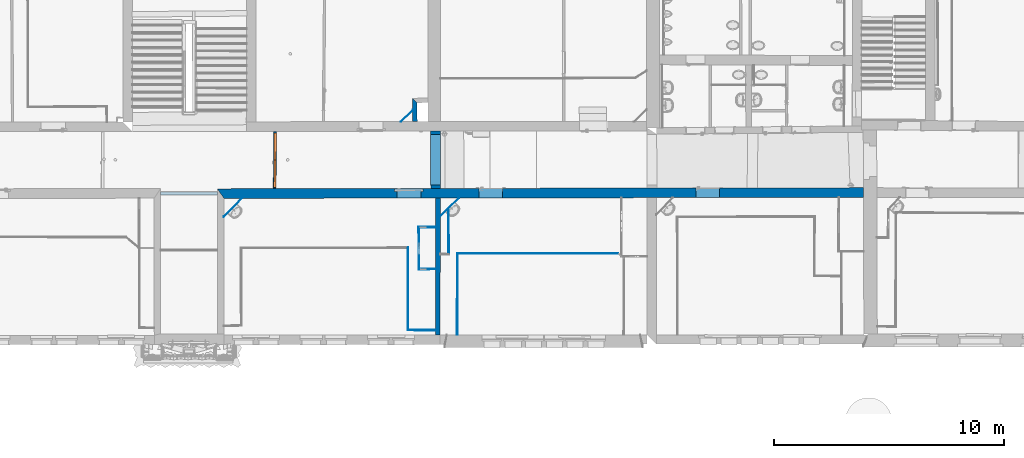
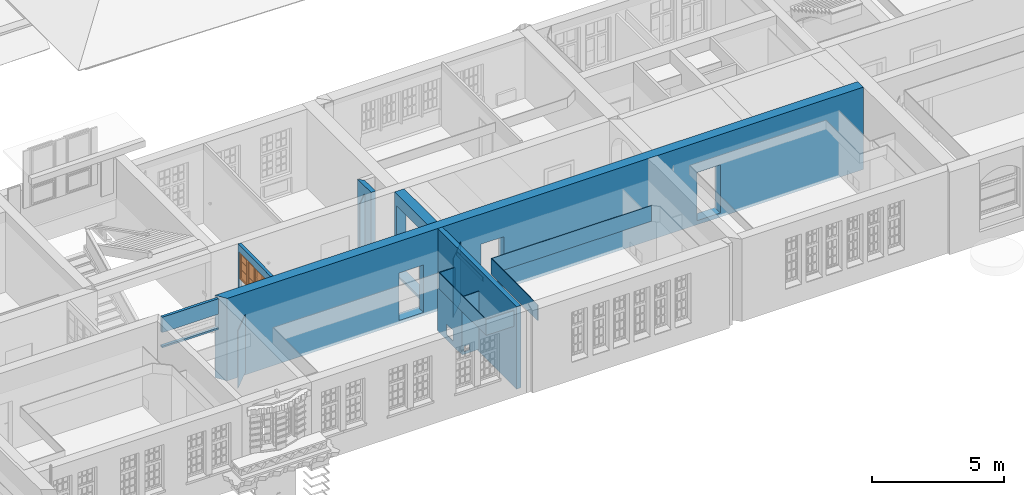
# One storey, part 32 of 158: 17 walls, 2 proxies, 11 openings.
"""IFC2X3 building model written with IfcOpenShell, lengths in metres."""

from ifc_helpers import new_model, entity, si_unit, converted_unit, derived_unit, money_unit, direction, frame, origin_with_axes, origin_2d_with_axis, place, context, subcontext, project, spatial, polyline, rectangle, outline, extrude, faceted_brep, source, transform, mapped, material, layer, layer_set, layer_usage, type_object, element, fill, save


model = new_model("IFC2X3")

# Units and contexts
model_context = context("Model", 3, precision=1e-05, world=origin_with_axes(), true_north=direction((0.0, 1.0)))
body_context = subcontext(model_context, "Body", "Model", "MODEL_VIEW")
ifc_project = project(units=[si_unit("LENGTHUNIT", "METRE"), si_unit("AREAUNIT", "SQUARE_METRE"), si_unit("VOLUMEUNIT", "CUBIC_METRE"), converted_unit("PLANEANGLEUNIT", "DEGREE", entity("IfcPlaneAngleMeasure", 0.0174532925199), si_unit("PLANEANGLEUNIT", "RADIAN"), dimensions=[0, 0, 0, 0, 0, 0, 0]), money_unit("EUR"), converted_unit("TIMEUNIT", "Year", entity("IfcTimeMeasure", 31556926.0), si_unit("TIMEUNIT", "SECOND"), dimensions=[0, 0, 1, 0, 0, 0, 0]), si_unit("MASSUNIT", "GRAM", prefix="KILO"), si_unit("THERMODYNAMICTEMPERATUREUNIT", "DEGREE_CELSIUS"), si_unit("LUMINOUSINTENSITYUNIT", "LUMEN"), si_unit("ENERGYUNIT", "JOULE", prefix="MEGA"), derived_unit("THERMALCONDUCTANCEUNIT", [(si_unit("POWERUNIT", "WATT"), 1), (si_unit("LENGTHUNIT", "METRE"), -1), (si_unit("THERMODYNAMICTEMPERATUREUNIT", "KELVIN"), -1)]), derived_unit("SPECIFICHEATCAPACITYUNIT", [(si_unit("ENERGYUNIT", "JOULE"), 1), (si_unit("MASSUNIT", "GRAM", prefix="KILO"), -1), (si_unit("THERMODYNAMICTEMPERATUREUNIT", "KELVIN"), -1)]), derived_unit("MASSDENSITYUNIT", [(si_unit("MASSUNIT", "GRAM", prefix="KILO"), 1), (si_unit("VOLUMEUNIT", "CUBIC_METRE"), -1)])], contexts=[model_context])

# Site, building, storey
site_placement = place(None, origin_with_axes())
site = spatial("IfcSite", under=ifc_project, at=site_placement, Name="Gelände", CompositionType="ELEMENT")
building_placement = place(site_placement, origin_with_axes())
building = spatial("IfcBuilding", under=site, at=building_placement, Name="Gebäude", CompositionType="ELEMENT")
storey_placement = place(building_placement, origin_with_axes())
storey = spatial("IfcBuildingStorey", under=building, at=storey_placement, Name="ERDGESCHOSS", CompositionType="ELEMENT", Elevation=0.0)

# Walls
ifc_material_1 = material(Name="05_ALLGEMEIN - TRAGENDE BAUTEILE")
ifc_layer_1 = layer(ifc_material_1, 0.2, ventilated="UNKNOWN")
ifc_layer_set_1 = layer_set([ifc_layer_1], Name="05_ALLGEMEIN - TRAGENDE BAUTEILE 0.2")
ifc_layer_usage_1 = layer_usage(ifc_layer_set_1, "AXIS2", "NEGATIVE", 0.2)
wall_type_1 = type_object("IfcWallType", Name="05_ALLGEMEIN - TRAGENDE BAUTEILE 200", PredefinedType="ELEMENTEDWALL")
wall_1_placement = place(storey_placement, frame((3.55510466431, 9.99557941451, -0.21), z_axis=(0.0, 0.0, 1.0), x_axis=(0.000249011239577, 0.999999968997, 0.0)))
element("IfcWallStandardCase", 1, at=wall_1_placement, inside=storey, type_object=wall_type_1, material=ifc_layer_usage_1, Name="Wand-035", ObjectType="ELEMENTEDWALL", context=body_context, shape_type="SweptSolid", body=[
    extrude(outline(polyline([(0.41900002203, 0.0), (6.3745866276, 0.0), (6.37421343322, 0.2), (0.404935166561, 0.2), (0.41900002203, 0.0)])), origin_with_axes(), (0.0, 0.0, 1.0), 3.81),
])
ifc_layer_usage_2 = layer_usage(ifc_layer_set_1, "AXIS2", "NEGATIVE", 0.0)
wall_2_placement = place(storey_placement, frame((2.35908215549, 19.2782361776, -0.21), z_axis=(0.0, 0.0, 1.0), x_axis=(-0.00809398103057, 0.999967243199, 0.0)))
element("IfcWallStandardCase", 2, at=wall_2_placement, inside=storey, type_object=wall_type_1, material=ifc_layer_usage_2, Name="Wand-038", ObjectType="ELEMENTEDWALL", context=body_context, shape_type="SweptSolid", body=[
    extrude(outline(polyline([(0.413067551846, -0.2), (1.23353995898, -0.2), (1.43061819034, 0.0), (0.414628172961, 0.0), (0.413067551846, -0.2)])), origin_with_axes(), (0.0, 0.0, 1.0), 3.81),
])

# Wall, openings
ifc_layer_2 = layer(ifc_material_1, 0.42, ventilated="UNKNOWN")
ifc_layer_set_2 = layer_set([ifc_layer_2], Name="05_ALLGEMEIN - TRAGENDE BAUTEILE 0.42")
ifc_layer_usage_3 = layer_usage(ifc_layer_set_2, "AXIS2", "NEGATIVE", 0.42)
wall_type_2 = type_object("IfcWallType", Name="05_ALLGEMEIN - TRAGENDE BAUTEILE 420", PredefinedType="ELEMENTEDWALL")
wall_3_placement = place(storey_placement, frame((21.9714720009, 16.8199423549, -0.21), z_axis=(0.0, 0.0, 1.0), x_axis=(-0.999998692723, -0.00161695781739, 0.0)))
wall_3 = element("IfcWallStandardCase", 3, at=wall_3_placement, inside=storey, type_object=wall_type_2, material=ifc_layer_usage_3, Name="Wand-036", ObjectType="ELEMENTEDWALL", context=body_context, shape_type="SweptSolid", body=[
    extrude(outline(polyline([(0.0, 0.0), (28.1196278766, 0.0), (27.8302322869, 0.42), (-0.000643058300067, 0.42), (0.0, 0.0)])), origin_with_axes(), (0.0, 0.0, 1.0), 3.81),
])
opening_1_placement = place(wall_3_placement, frame((16.2172151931, 0.0, 0.166246), z_axis=(0.0, 0.0, 1.0), x_axis=(1.0, 0.0, 0.0)))
element("IfcOpeningElement", 4, at=opening_1_placement, cuts=wall_3, Name="Tür-022", context=body_context, shape_type="SweptSolid", body=[
    extrude(rectangle(XDim=1.00454069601, YDim=2.250558, at=origin_2d_with_axis()), frame((0.0, -0.42, 1.125279), z_axis=(0.0, 1.0, 0.0), x_axis=(-1.0, 0.0, 0.0)), (0.0, 0.0, 1.0), 1.26),
])
opening_2_placement = place(wall_3_placement, frame((6.77188532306, 0.0, 0.188019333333), z_axis=(0.0, 0.0, 1.0), x_axis=(1.0, 0.0, 0.0)))
element("IfcOpeningElement", 5, at=opening_2_placement, cuts=wall_3, Name="Tür-022", context=body_context, shape_type="SweptSolid", body=[
    extrude(rectangle(XDim=1.03194822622, YDim=2.22878466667, at=origin_2d_with_axis()), frame((0.0, -0.42, 1.11439233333), z_axis=(0.0, 1.0, 0.0), x_axis=(-1.0, 0.0, 0.0)), (0.0, 0.0, 1.0), 1.26),
])
opening_3_placement = place(wall_3_placement, frame((19.7783409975, 0.0, 0.156249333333), z_axis=(0.0, 0.0, 1.0), x_axis=(1.0, 0.0, 0.0)))
element("IfcOpeningElement", 6, at=opening_3_placement, cuts=wall_3, Name="Tür-022", context=body_context, shape_type="SweptSolid", body=[
    extrude(rectangle(XDim=1.05907517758, YDim=2.193751, at=origin_2d_with_axis()), frame((0.0, 0.14, 1.0968755), z_axis=(0.0, -1.0, 0.0), x_axis=(-1.0, 0.0, 0.0)), (0.0, 0.0, -1.0), 0.7),
    extrude(rectangle(XDim=1.23907517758, YDim=2.283751, at=origin_2d_with_axis()), frame((0.0, 0.05, 1.1418755), z_axis=(0.0, 1.0, 0.0), x_axis=(-1.0, 0.0, 0.0)), (0.0, 0.0, 1.0), 0.09),
    extrude(rectangle(XDim=1.23907517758, YDim=2.283751, at=origin_2d_with_axis()), frame((0.0, 0.05, 1.1418755), z_axis=(0.0, 1.0, 0.0), x_axis=(-1.0, 0.0, 0.0)), (0.0, 0.0, -1.0), 0.47),
])

# Wall, opening
ifc_layer_3 = layer(ifc_material_1, 0.12, ventilated="UNKNOWN")
ifc_layer_set_3 = layer_set([ifc_layer_3], Name="05_ALLGEMEIN - TRAGENDE BAUTEILE 0.12")
ifc_layer_usage_4 = layer_usage(ifc_layer_set_3, "AXIS2", "NEGATIVE", 0.0)
wall_type_3 = type_object("IfcWallType", Name="05_ALLGEMEIN - TRAGENDE BAUTEILE 120", PredefinedType="ELEMENTEDWALL")
wall_4_placement = place(storey_placement, frame((-8.8958416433, 16.6259238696, 2.18389869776), z_axis=(0.0, 0.0, 1.0), x_axis=(0.999999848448, -0.000550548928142, 0.0)))
wall_4 = element("IfcWallStandardCase", 7, at=wall_4_placement, inside=storey, type_object=wall_type_3, material=ifc_layer_usage_4, Name="Wand-036", ObjectType="ELEMENTEDWALL", context=body_context, shape_type="SweptSolid", body=[
    extrude(outline(polyline([(0.280162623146, -0.12), (2.74785957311, -0.12), (2.74785957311, 0.0), (0.280000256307, 0.0), (0.280162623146, -0.12)])), origin_with_axes(), (0.0, 0.0, 1.0), 1.41610130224),
])
opening_4_placement = place(wall_4_placement, frame((1.51392991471, 0.0, 0.0799876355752), z_axis=(0.0, 0.0, 1.0), x_axis=(1.0, 0.0, 0.0)))
element("IfcOpeningElement", 8, at=opening_4_placement, cuts=wall_4, Name="Fenster-016", context=body_context, shape_type="SweptSolid", body=[
    extrude(rectangle(XDim=2.4678593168, YDim=0.62715, at=origin_2d_with_axis()), frame((0.0, -0.12, 0.313575), z_axis=(0.0, 1.0, 0.0), x_axis=(-1.0, 0.0, 0.0)), (0.0, 0.0, 1.0), 0.36),
])

ifc_material_2 = material(Name="43_Gipskarton")
ifc_layer_4 = layer(ifc_material_2, 0.03, ventilated="UNKNOWN")
ifc_layer_set_4 = layer_set([ifc_layer_4], Name="43_Gipskarton 0.03")
ifc_layer_usage_5 = layer_usage(ifc_layer_set_4, "AXIS2", "NEGATIVE", 0.03)
wall_type_4 = type_object("IfcWallType", Name="43_Gipskarton 30", PredefinedType="ELEMENTEDWALL")
wall_5_placement = place(storey_placement, frame((2.61746169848, 13.2516021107, -0.1), z_axis=(0.0, 0.0, 1.0), x_axis=(0.9998155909, 0.0192037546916, 0.0)))
wall_5 = element("IfcWallStandardCase", 9, at=wall_5_placement, inside=storey, type_object=wall_type_4, material=ifc_layer_usage_5, Name="Wand-032", ObjectType="ELEMENTEDWALL", context=body_context, shape_type="SweptSolid", body=[
    extrude(outline(polyline([(0.0, 0.0), (0.738593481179, 0.0), (0.739177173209, 0.03), (0.0304233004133, 0.03), (0.0, 0.0)])), origin_with_axes(), (0.0, 0.0, 1.0), 2.68),
])
opening_5_placement = place(wall_5_placement, frame((0.199169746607, 0.0, 0.127277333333), z_axis=(0.0, 0.0, 1.0), x_axis=(1.0, 0.0, 0.0)))
element("IfcOpeningElement", 10, at=opening_5_placement, cuts=wall_5, Name="Tür-022", context=body_context, shape_type="SweptSolid", body=[
    extrude(rectangle(XDim=0.255160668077, YDim=0.24614, at=origin_2d_with_axis()), frame((0.0, -0.03, 0.12307), z_axis=(0.0, -1.0, 0.0), x_axis=(1.0, 0.0, 0.0)), (0.0, 0.0, -1.0), 0.09),
])

ifc_layer_usage_6 = layer_usage(ifc_layer_set_4, "AXIS2", "NEGATIVE", 0.03)
wall_6_placement = place(storey_placement, frame((3.55637992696, 15.1168848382, -0.1), z_axis=(0.0, 0.0, 1.0), x_axis=(-0.999998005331, -0.00199733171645, 0.0)))
wall_6 = element("IfcWallStandardCase", 11, at=wall_6_placement, inside=storey, type_object=wall_type_4, material=ifc_layer_usage_6, Name="Wand-032", ObjectType="ELEMENTEDWALL", context=body_context, shape_type="SweptSolid", body=[
    extrude(outline(polyline([(0.200000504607, 0.0), (0.948598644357, 0.0), (0.918502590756, 0.03), (0.200067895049, 0.03), (0.200000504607, 0.0)])), origin_with_axes(), (0.0, 0.0, 1.0), 2.68),
])
opening_6_placement = place(wall_6_placement, frame((0.746464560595, 0.0, 0.127693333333), z_axis=(0.0, 0.0, 1.0), x_axis=(1.0, 0.0, 0.0)))
element("IfcOpeningElement", 12, at=opening_6_placement, cuts=wall_6, Name="Tür-022", context=body_context, shape_type="SweptSolid", body=[
    extrude(rectangle(XDim=0.251016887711, YDim=0.247427, at=origin_2d_with_axis()), frame((0.0, -0.03, 0.1237135), z_axis=(0.0, 1.0, 0.0), x_axis=(-1.0, 0.0, 0.0)), (0.0, 0.0, 1.0), 0.09),
])

ifc_layer_usage_7 = layer_usage(ifc_layer_set_4, "AXIS2", "NEGATIVE", 0.03)
wall_7_placement = place(storey_placement, frame((2.60778317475, 15.114990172, -0.1), z_axis=(0.0, 0.0, 1.0), x_axis=(0.00519397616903, -0.999986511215, 0.0)))
wall_7 = element("IfcWallStandardCase", 13, at=wall_7_placement, inside=storey, type_object=wall_type_4, material=ifc_layer_usage_7, Name="Wand-032", ObjectType="ELEMENTEDWALL", context=body_context, shape_type="SweptSolid", body=[
    extrude(outline(polyline([(0.0, 0.0), (1.86341319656, 0.0), (1.83298989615, 0.03), (0.0300960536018, 0.03), (0.0, 0.0)])), origin_with_axes(), (0.0, 0.0, 1.0), 2.68),
])
opening_7_placement = place(wall_7_placement, frame((0.940618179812, 0.0, 0.233793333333), z_axis=(0.0, 0.0, 1.0), x_axis=(1.0, 0.0, 0.0)))
element("IfcOpeningElement", 14, at=opening_7_placement, cuts=wall_7, Name="Tür-022", context=body_context, shape_type="SweptSolid", body=[
    extrude(rectangle(XDim=0.496701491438, YDim=0.48975, at=origin_2d_with_axis()), frame((0.0, -0.03, 0.244875), z_axis=(0.0, 1.0, 0.0), x_axis=(-1.0, 0.0, 0.0)), (0.0, 0.0, 1.0), 0.09),
])

# Walls
ifc_layer_usage_8 = layer_usage(ifc_layer_set_4, "AXIS2", "NEGATIVE", 0.03)
wall_8_placement = place(storey_placement, frame((-5.85790078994, 15.5422168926, -0.08), z_axis=(0.0, 0.0, 1.0), x_axis=(0.702281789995, 0.711899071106, 0.0)))
element("IfcWallStandardCase", 15, at=wall_8_placement, inside=storey, type_object=wall_type_4, material=ifc_layer_usage_8, Name="Wand-033", ObjectType="ELEMENTEDWALL", context=body_context, shape_type="SweptSolid", body=[
    extrude(outline(polyline([(0.0, 0.0), (1.14345478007, 0.0), (1.11376419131, 0.03), (0.0304000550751, 0.03), (0.0, 0.0)])), origin_with_axes(), (0.0, 0.0, 1.0), 2.66),
])
ifc_layer_usage_9 = layer_usage(ifc_layer_set_4, "AXIS2", "NEGATIVE", 0.03)
wall_9_placement = place(storey_placement, frame((3.55648790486, 15.5505114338, -0.1), z_axis=(0.0, 0.0, 1.0), x_axis=(0.705938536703, 0.708273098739, 0.0)))
element("IfcWallStandardCase", 16, at=wall_9_placement, inside=storey, type_object=wall_type_4, material=ifc_layer_usage_9, Name="Wand-034", ObjectType="ELEMENTEDWALL", context=body_context, shape_type="SweptSolid", body=[
    extrude(outline(polyline([(0.0, 0.0), (1.15912519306, 0.0), (1.12912722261, 0.03), (0.0301142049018, 0.03), (0.0, 0.0)])), origin_with_axes(), (0.0, 0.0, 1.0), 2.725),
])
ifc_layer_usage_10 = layer_usage(ifc_layer_set_4, "AXIS2", "NEGATIVE", 0.0)
wall_10_placement = place(storey_placement, frame((1.40259569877, 19.2779577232, -0.08), z_axis=(0.0, 0.0, 1.0), x_axis=(0.714375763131, 0.699762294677, 0.0)))
element("IfcWallStandardCase", 17, at=wall_10_placement, inside=storey, type_object=wall_type_4, material=ifc_layer_usage_10, Name="Wand-038", ObjectType="ELEMENTEDWALL", context=body_context, shape_type="SweptSolid", body=[
    extrude(outline(polyline([(0.623329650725, -0.03), (1.29946885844, -0.03), (1.32838309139, 0.0), (0.592685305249, 0.0), (0.623329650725, -0.03)])), origin_with_axes(), (0.0, 0.0, 1.0), 3.31),
])
ifc_layer_usage_11 = layer_usage(ifc_layer_set_4, "AXIS2", "NEGATIVE", 0.03)
wall_11_placement = place(storey_placement, frame((4.32262784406, 13.9474395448, 2.625), z_axis=(0.0, 0.0, 1.0), x_axis=(0.999999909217, -0.000426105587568, 0.0)))
element("IfcWallStandardCase", 18, at=wall_11_placement, inside=storey, type_object=wall_type_4, material=ifc_layer_usage_11, Name="Wand-041", ObjectType="ELEMENTEDWALL", context=body_context, shape_type="SweptSolid", body=[
    extrude(outline(polyline([(0.0, 0.0), (6.9773817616, 0.0), (6.98883710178, 0.03), (-0.0298931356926, 0.03), (0.0, 0.0)])), origin_with_axes(), (0.0, 0.0, 1.0), 0.725),
])
ifc_layer_usage_12 = layer_usage(ifc_layer_set_4, "AXIS2", "NEGATIVE", 0.03)
wall_12_placement = place(storey_placement, frame((2.13699682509, 14.1890641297, 2.58), z_axis=(0.0, 0.0, 1.0), x_axis=(-0.000899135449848, -0.999999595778, 0.0)))
element("IfcWallStandardCase", 19, at=wall_12_placement, inside=storey, type_object=wall_type_4, material=ifc_layer_usage_12, Name="Wand-042", ObjectType="ELEMENTEDWALL", context=body_context, shape_type="SweptSolid", body=[
    extrude(outline(polyline([(0.0, 0.0), (3.58033816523, 0.0), (3.55056123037, 0.03), (-0.0300420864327, 0.03), (0.0, 0.0)])), origin_with_axes(), (0.0, 0.0, 1.0), 0.73),
])
ifc_layer_usage_13 = layer_usage(ifc_layer_set_4, "AXIS2", "NEGATIVE", 0.0)
wall_13_placement = place(storey_placement, frame((4.32262784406, 13.9474395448, 2.625), z_axis=(0.0, 0.0, 1.0), x_axis=(-0.0039945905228, -0.999992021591, 0.0)))
element("IfcWallStandardCase", 20, at=wall_13_placement, inside=storey, type_object=wall_type_4, material=ifc_layer_usage_13, Name="Wand-042", ObjectType="ELEMENTEDWALL", context=body_context, shape_type="SweptSolid", body=[
    extrude(outline(polyline([(-0.0298931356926, -0.03), (3.53327250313, -0.03), (3.53315788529, 0.0), (0.0, 0.0), (-0.0298931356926, -0.03)])), origin_with_axes(), (0.0, 0.0, 1.0), 0.725),
])
ifc_layer_usage_14 = layer_usage(ifc_layer_set_4, "AXIS2", "NEGATIVE", 0.03)
wall_14_placement = place(storey_placement, frame((2.13377761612, 10.6087274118, 2.58), z_axis=(0.0, 0.0, 1.0), x_axis=(0.999965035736, -0.00836225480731, 0.0)))
element("IfcWallStandardCase", 21, at=wall_14_placement, inside=storey, type_object=wall_type_4, material=ifc_layer_usage_14, Name="Wand-043", ObjectType="ELEMENTEDWALL", context=body_context, shape_type="SweptSolid", body=[
    extrude(outline(polyline([(0.0, 0.0), (1.22151988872, 0.0), (1.22127648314, 0.03), (0.0297769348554, 0.03), (0.0, 0.0)])), origin_with_axes(), (0.0, 0.0, 1.0), 0.73),
])
ifc_layer_usage_15 = layer_usage(ifc_layer_set_4, "AXIS2", "NEGATIVE", 0.0)
wall_15_placement = place(storey_placement, frame((3.93339412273, 15.9286640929, 2.445), z_axis=(0.0, 0.0, 1.0), x_axis=(0.00290093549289, -0.999995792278, 0.0)))
element("IfcWallStandardCase", 22, at=wall_15_placement, inside=storey, type_object=wall_type_4, material=ifc_layer_usage_15, Name="Wand-045", ObjectType="ELEMENTEDWALL", context=body_context, shape_type="SweptSolid", body=[
    extrude(outline(polyline([(0.0299250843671, -0.03), (1.9940044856, -0.03), (2.02455255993, 0.0), (0.0, 0.0), (0.0299250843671, -0.03)])), origin_with_axes(), (0.0, 0.0, 1.0), 0.18),
])

# Wall, openings, proxies
ifc_layer_5 = layer(ifc_material_1, 0.13, ventilated="UNKNOWN")
ifc_layer_set_5 = layer_set([ifc_layer_5], Name="05_ALLGEMEIN - TRAGENDE BAUTEILE 0.13")
ifc_layer_usage_16 = layer_usage(ifc_layer_set_5, "AXIS2", "NEGATIVE", 0.13)
wall_type_5 = type_object("IfcWallType", Name="05_ALLGEMEIN - TRAGENDE BAUTEILE 130", PredefinedType="ELEMENTEDWALL")
wall_16_placement = place(storey_placement, frame((-3.58523431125, 16.7786181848, -0.21), z_axis=(0.0, 0.0, 1.0), x_axis=(0.00668770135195, 0.999977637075, 0.0)))
wall_16 = element("IfcWallStandardCase", 23, at=wall_16_placement, inside=storey, type_object=wall_type_5, material=ifc_layer_usage_16, Name="Wand-036", ObjectType="ELEMENTEDWALL", context=body_context, shape_type="SweptSolid", body=[
    extrude(outline(polyline([(0.0, 0.0), (2.49794819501, 0.0), (2.49704092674, 0.13), (-0.00107963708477, 0.13), (0.0, 0.0)])), origin_with_axes(), (0.0, 0.0, 1.0), 3.81),
])
opening_8_placement = place(wall_16_placement, frame((1.83636772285, 0.0, 2.22483866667), z_axis=(0.0, 0.0, 1.0), x_axis=(1.0, 0.0, 0.0)))
opening_8 = element("IfcOpeningElement", 24, at=opening_8_placement, cuts=wall_16, Name="Fenster-016", context=body_context, shape_type="SweptSolid", body=[
    extrude(rectangle(XDim=1.18544494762, YDim=1.25641788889, at=origin_2d_with_axis()), frame((0.0, 0.007, 0.628208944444), z_axis=(0.0, 1.0, 0.0), x_axis=(-1.0, 0.0, 0.0)), (0.0, 0.0, 1.0), 0.253),
    extrude(rectangle(XDim=1.18544494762, YDim=1.25641788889, at=origin_2d_with_axis()), frame((0.0, 0.007, 0.628208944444), z_axis=(0.0, -1.0, 0.0), x_axis=(-1.0, 0.0, 0.0)), (0.0, 0.0, 1.0), 0.137),
])
opening_9_placement = place(wall_16_placement, frame((0.65092277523, 0.0, 2.22483866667), z_axis=(0.0, 0.0, 1.0), x_axis=(1.0, 0.0, 0.0)))
opening_9 = element("IfcOpeningElement", 25, at=opening_9_placement, cuts=wall_16, Name="Fenster-016", context=body_context, shape_type="SweptSolid", body=[
    extrude(rectangle(XDim=1.18544494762, YDim=1.25641788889, at=origin_2d_with_axis()), frame((0.0, 0.007, 0.628208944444), z_axis=(0.0, 1.0, 0.0), x_axis=(-1.0, 0.0, 0.0)), (0.0, 0.0, 1.0), 0.253),
    extrude(rectangle(XDim=1.18544494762, YDim=1.25641788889, at=origin_2d_with_axis()), frame((0.0, 0.007, 0.628208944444), z_axis=(0.0, -1.0, 0.0), x_axis=(-1.0, 0.0, 0.0)), (0.0, 0.0, 1.0), 0.137),
])
opening_10_placement = place(wall_16_placement, frame((1.24364524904, 0.0, 0.101866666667), z_axis=(0.0, 0.0, 1.0), x_axis=(1.0, 0.0, 0.0)))
element("IfcOpeningElement", 26, at=opening_10_placement, cuts=wall_16, Name="Tür-023", context=body_context, shape_type="SweptSolid", body=[
    extrude(rectangle(XDim=2.37088989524, YDim=2.122972, at=origin_2d_with_axis()), frame((0.0, 0.116776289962, 1.061486), z_axis=(0.0, -1.0, 0.0), x_axis=(-1.0, 0.0, 0.0)), (0.0, 0.0, 1.0), 0.246776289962),
    extrude(rectangle(XDim=2.37088989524, YDim=2.122972, at=origin_2d_with_axis()), frame((0.0, 0.116776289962, 1.061486), z_axis=(0.0, 1.0, 0.0), x_axis=(-1.0, 0.0, 0.0)), (0.0, 0.0, 1.0), 0.143223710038),
])
building_element_proxy_type = type_object("IfcBuildingElementProxyType", Name="2-Flügelfenster 1+1 25", PredefinedType="NOTDEFINED")
shared_shape = source(origin_with_axes(), body_context, "Body", "Brep", [
    faceted_brep([(0.59272247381, -0.1, 0.0), (0.53272247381, -0.1, 0.06), (0.53272247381, 0.0, 0.06), (0.59272247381, 0.0, 0.0), (0.59272247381, -0.1, 1.25641788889), (0.53272247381, -0.1, 1.19641788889), (0.53272247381, 0.0, 1.19641788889), (0.59272247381, 0.0, 1.25641788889)], [[[0, 1, 2, 3]], [[0, 4, 5, 1]], [[1, 5, 6, 2]], [[3, 2, 6, 7]], [[4, 0, 3, 7]], [[5, 4, 7, 6]]]),
    faceted_brep([(-0.59272247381, -0.1, 0.0), (-0.59272247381, -0.1, 1.25641788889), (-0.59272247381, 0.0, 1.25641788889), (-0.59272247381, 0.0, 0.0), (-0.53272247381, -0.1, 0.06), (-0.53272247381, -0.1, 1.19641788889), (-0.53272247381, 0.0, 1.19641788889), (-0.53272247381, 0.0, 0.06)], [[[0, 1, 2, 3]], [[0, 4, 5, 1]], [[1, 5, 6, 2]], [[3, 2, 6, 7]], [[4, 0, 3, 7]], [[5, 4, 7, 6]]]),
    faceted_brep([(0.59272247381, -0.1, 0.0), (-0.59272247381, -0.1, 0.0), (-0.59272247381, 0.0, 0.0), (0.59272247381, 0.0, 0.0), (0.53272247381, -0.1, 0.06), (0.07, -0.1, 0.06), (-0.07, -0.1, 0.06), (-0.53272247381, -0.1, 0.06), (-0.53272247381, 0.0, 0.06), (-0.07, 0.0, 0.06), (0.07, 0.0, 0.06), (0.53272247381, 0.0, 0.06)], [[[0, 1, 2, 3]], [[0, 4, 5, 6, 7, 1]], [[1, 7, 8, 2]], [[3, 2, 8, 9, 10, 11]], [[4, 0, 3, 11]], [[5, 4, 11, 10]], [[6, 5, 10, 9]], [[7, 6, 9, 8]]]),
    faceted_brep([(0.59272247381, -0.1, 1.25641788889), (0.53272247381, -0.1, 1.19641788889), (0.53272247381, 0.0, 1.19641788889), (0.59272247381, 0.0, 1.25641788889), (-0.59272247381, -0.1, 1.25641788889), (-0.53272247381, -0.1, 1.19641788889), (-0.07, -0.1, 1.19641788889), (0.07, -0.1, 1.19641788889), (0.07, 0.0, 1.19641788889), (-0.07, 0.0, 1.19641788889), (-0.53272247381, 0.0, 1.19641788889), (-0.59272247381, 0.0, 1.25641788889)], [[[0, 1, 2, 3]], [[0, 4, 5, 6, 7, 1]], [[1, 7, 8, 2]], [[3, 2, 8, 9, 10, 11]], [[4, 0, 3, 11]], [[5, 4, 11, 10]], [[6, 5, 10, 9]], [[7, 6, 9, 8]]]),
    faceted_brep([(0.07, -0.1, 0.06), (-0.07, -0.1, 0.06), (-0.07, 0.0, 0.06), (0.07, 0.0, 0.06), (0.07, -0.1, 1.19641788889), (-0.07, -0.1, 1.19641788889), (-0.07, 0.0, 1.19641788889), (0.07, 0.0, 1.19641788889)], [[[0, 1, 2, 3]], [[0, 4, 5, 1]], [[1, 5, 6, 2]], [[3, 2, 6, 7]], [[4, 0, 3, 7]], [[5, 4, 7, 6]]]),
    faceted_brep([(0.53272247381, -0.0625, 0.422139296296), (0.07, -0.0625, 0.422139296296), (0.07, -0.05, 0.422139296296), (0.53272247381, -0.05, 0.422139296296), (0.53272247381, -0.0625, 0.447139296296), (0.07, -0.0625, 0.447139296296), (0.07, -0.05, 0.447139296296), (0.53272247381, -0.05, 0.447139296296)], [[[0, 1, 2, 3]], [[0, 4, 5, 1]], [[1, 5, 6, 2]], [[3, 2, 6, 7]], [[4, 0, 3, 7]], [[5, 4, 7, 6]]]),
    faceted_brep([(0.53272247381, -0.05, 0.422139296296), (0.07, -0.05, 0.422139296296), (0.07, -0.0375, 0.422139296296), (0.53272247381, -0.0375, 0.422139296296), (0.53272247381, -0.05, 0.447139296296), (0.07, -0.05, 0.447139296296), (0.07, -0.0375, 0.447139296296), (0.53272247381, -0.0375, 0.447139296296)], [[[0, 1, 2, 3]], [[0, 4, 5, 1]], [[1, 5, 6, 2]], [[3, 2, 6, 7]], [[4, 0, 3, 7]], [[5, 4, 7, 6]]]),
    faceted_brep([(0.53272247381, -0.0625, 0.809278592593), (0.07, -0.0625, 0.809278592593), (0.07, -0.05, 0.809278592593), (0.53272247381, -0.05, 0.809278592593), (0.53272247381, -0.0625, 0.834278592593), (0.07, -0.0625, 0.834278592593), (0.07, -0.05, 0.834278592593), (0.53272247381, -0.05, 0.834278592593)], [[[0, 1, 2, 3]], [[0, 4, 5, 1]], [[1, 5, 6, 2]], [[3, 2, 6, 7]], [[4, 0, 3, 7]], [[5, 4, 7, 6]]]),
    faceted_brep([(0.53272247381, -0.05, 0.809278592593), (0.07, -0.05, 0.809278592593), (0.07, -0.0375, 0.809278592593), (0.53272247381, -0.0375, 0.809278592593), (0.53272247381, -0.05, 0.834278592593), (0.07, -0.05, 0.834278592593), (0.07, -0.0375, 0.834278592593), (0.53272247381, -0.0375, 0.834278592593)], [[[0, 1, 2, 3]], [[0, 4, 5, 1]], [[1, 5, 6, 2]], [[3, 2, 6, 7]], [[4, 0, 3, 7]], [[5, 4, 7, 6]]]),
    faceted_brep([(0.07, -0.045, 0.809278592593), (0.07, -0.045, 0.447139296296), (0.07, -0.055, 0.447139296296), (0.07, -0.055, 0.809278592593), (0.53272247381, -0.045, 0.809278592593), (0.53272247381, -0.045, 0.447139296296), (0.53272247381, -0.055, 0.447139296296), (0.53272247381, -0.055, 0.809278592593)], [[[0, 1, 2, 3]], [[4, 5, 1, 0]], [[2, 1, 5, 6]], [[3, 2, 6, 7]], [[7, 4, 0, 3]], [[7, 6, 5, 4]]]),
    faceted_brep([(0.07, -0.055, 0.06), (0.07, -0.055, 0.422139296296), (0.07, -0.045, 0.422139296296), (0.07, -0.045, 0.06), (0.53272247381, -0.055, 0.06), (0.53272247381, -0.055, 0.422139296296), (0.53272247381, -0.045, 0.422139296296), (0.53272247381, -0.045, 0.06)], [[[0, 1, 2, 3]], [[4, 5, 1, 0]], [[2, 1, 5, 6]], [[3, 2, 6, 7]], [[0, 3, 7, 4]], [[7, 6, 5, 4]]]),
    faceted_brep([(0.53272247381, -0.055, 0.834278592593), (0.53272247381, -0.055, 1.19641788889), (0.07, -0.055, 1.19641788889), (0.07, -0.055, 0.834278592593), (0.53272247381, -0.045, 0.834278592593), (0.53272247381, -0.045, 1.19641788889), (0.07, -0.045, 1.19641788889), (0.07, -0.045, 0.834278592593)], [[[0, 1, 2, 3]], [[4, 5, 1, 0]], [[5, 6, 2, 1]], [[3, 2, 6, 7]], [[7, 4, 0, 3]], [[7, 6, 5, 4]]]),
    faceted_brep([(-0.07, -0.0625, 0.422139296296), (-0.53272247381, -0.0625, 0.422139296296), (-0.53272247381, -0.05, 0.422139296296), (-0.07, -0.05, 0.422139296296), (-0.07, -0.0625, 0.447139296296), (-0.53272247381, -0.0625, 0.447139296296), (-0.53272247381, -0.05, 0.447139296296), (-0.07, -0.05, 0.447139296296)], [[[0, 1, 2, 3]], [[0, 4, 5, 1]], [[1, 5, 6, 2]], [[3, 2, 6, 7]], [[4, 0, 3, 7]], [[5, 4, 7, 6]]]),
    faceted_brep([(-0.07, -0.05, 0.422139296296), (-0.53272247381, -0.05, 0.422139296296), (-0.53272247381, -0.0375, 0.422139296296), (-0.07, -0.0375, 0.422139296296), (-0.07, -0.05, 0.447139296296), (-0.53272247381, -0.05, 0.447139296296), (-0.53272247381, -0.0375, 0.447139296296), (-0.07, -0.0375, 0.447139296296)], [[[0, 1, 2, 3]], [[0, 4, 5, 1]], [[1, 5, 6, 2]], [[3, 2, 6, 7]], [[4, 0, 3, 7]], [[5, 4, 7, 6]]]),
    faceted_brep([(-0.07, -0.0625, 0.809278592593), (-0.53272247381, -0.0625, 0.809278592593), (-0.53272247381, -0.05, 0.809278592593), (-0.07, -0.05, 0.809278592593), (-0.07, -0.0625, 0.834278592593), (-0.53272247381, -0.0625, 0.834278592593), (-0.53272247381, -0.05, 0.834278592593), (-0.07, -0.05, 0.834278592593)], [[[0, 1, 2, 3]], [[0, 4, 5, 1]], [[1, 5, 6, 2]], [[3, 2, 6, 7]], [[4, 0, 3, 7]], [[5, 4, 7, 6]]]),
    faceted_brep([(-0.07, -0.05, 0.809278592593), (-0.53272247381, -0.05, 0.809278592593), (-0.53272247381, -0.0375, 0.809278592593), (-0.07, -0.0375, 0.809278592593), (-0.07, -0.05, 0.834278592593), (-0.53272247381, -0.05, 0.834278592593), (-0.53272247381, -0.0375, 0.834278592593), (-0.07, -0.0375, 0.834278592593)], [[[0, 1, 2, 3]], [[0, 4, 5, 1]], [[1, 5, 6, 2]], [[3, 2, 6, 7]], [[4, 0, 3, 7]], [[5, 4, 7, 6]]]),
    faceted_brep([(-0.53272247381, -0.045, 0.809278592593), (-0.53272247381, -0.045, 0.447139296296), (-0.53272247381, -0.055, 0.447139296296), (-0.53272247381, -0.055, 0.809278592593), (-0.07, -0.045, 0.809278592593), (-0.07, -0.045, 0.447139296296), (-0.07, -0.055, 0.447139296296), (-0.07, -0.055, 0.809278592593)], [[[0, 1, 2, 3]], [[4, 5, 1, 0]], [[2, 1, 5, 6]], [[3, 2, 6, 7]], [[7, 4, 0, 3]], [[7, 6, 5, 4]]]),
    faceted_brep([(-0.53272247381, -0.055, 0.06), (-0.53272247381, -0.055, 0.422139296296), (-0.53272247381, -0.045, 0.422139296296), (-0.53272247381, -0.045, 0.06), (-0.07, -0.055, 0.06), (-0.07, -0.055, 0.422139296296), (-0.07, -0.045, 0.422139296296), (-0.07, -0.045, 0.06)], [[[0, 1, 2, 3]], [[4, 5, 1, 0]], [[2, 1, 5, 6]], [[3, 2, 6, 7]], [[0, 3, 7, 4]], [[7, 6, 5, 4]]]),
    faceted_brep([(-0.07, -0.055, 0.834278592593), (-0.07, -0.055, 1.19641788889), (-0.53272247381, -0.055, 1.19641788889), (-0.53272247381, -0.055, 0.834278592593), (-0.07, -0.045, 0.834278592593), (-0.07, -0.045, 1.19641788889), (-0.53272247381, -0.045, 1.19641788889), (-0.53272247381, -0.045, 0.834278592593)], [[[0, 1, 2, 3]], [[4, 5, 1, 0]], [[5, 6, 2, 1]], [[3, 2, 6, 7]], [[7, 4, 0, 3]], [[7, 6, 5, 4]]]),
])
proxy_1_placement = place(opening_8_placement, frame((-0.59272247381, 0.0, 0.0), z_axis=(0.0, 0.0, 1.0), x_axis=(1.0, 0.0, 0.0)))
proxy_1 = element("IfcBuildingElementProxy", 27, at=proxy_1_placement, inside=storey, type_object=building_element_proxy_type, Name="Fenster-016", context=body_context, shape_type="MappedRepresentation", body=[
    mapped(shared_shape, transform((0.59272247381, 0.107, 0.0))),
])
fill(opening_8, proxy_1)
proxy_2_placement = place(opening_9_placement, frame((-0.59272247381, 0.0, 0.0), z_axis=(0.0, 0.0, 1.0), x_axis=(1.0, 0.0, 0.0)))
proxy_2 = element("IfcBuildingElementProxy", 28, at=proxy_2_placement, inside=storey, type_object=building_element_proxy_type, Name="Fenster-016", context=body_context, shape_type="MappedRepresentation", body=[
    mapped(shared_shape, transform((0.59272247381, 0.107, 0.0))),
])
fill(opening_9, proxy_2)

# Wall, opening
ifc_layer_6 = layer(ifc_material_1, 0.42355258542, ventilated="UNKNOWN")
ifc_layer_set_6 = layer_set([ifc_layer_6], Name="05_ALLGEMEIN - TRAGENDE BAUTEILE 0.423553")
ifc_layer_usage_17 = layer_usage(ifc_layer_set_6, "AXIS2", "NEGATIVE", 0.42355258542)
wall_type_6 = type_object("IfcWallType", Name="05_ALLGEMEIN - TRAGENDE BAUTEILE 424", PredefinedType="ELEMENTEDWALL")
wall_17_placement = place(storey_placement, frame((3.56620450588, 16.7901817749, -0.21), z_axis=(0.0, 0.0, 1.0), x_axis=(-0.00161217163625, 0.99999870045, 0.0)))
wall_17 = element("IfcWallStandardCase", 29, at=wall_17_placement, inside=storey, type_object=wall_type_6, material=ifc_layer_usage_17, Name="Wand-043", ObjectType="ELEMENTEDWALL", context=body_context, shape_type="SweptSolid", body=[
    extrude(outline(polyline([(0.0, 0.0), (2.48840788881, 0.0), (2.48896742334, 0.42355258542), (-2.02720204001e-06, 0.42355258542), (0.0, 0.0)])), origin_with_axes(), (0.0, 0.0, 1.0), 3.81),
])
opening_11_placement = place(wall_17_placement, frame((1.24763272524, 0.0, 0.11), z_axis=(0.0, 0.0, 1.0), x_axis=(1.0, 0.0, 0.0)))
element("IfcOpeningElement", 30, at=opening_11_placement, cuts=wall_17, Name="Tür-022", context=body_context, shape_type="SweptSolid", body=[
    extrude(rectangle(XDim=2.20056055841, YDim=3.155702, at=origin_2d_with_axis()), frame((0.0, 0.2, 1.577851), z_axis=(0.0, -1.0, 0.0), x_axis=(1.0, 0.0, 0.0)), (0.0, 0.0, -1.0), 0.647105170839),
    extrude(rectangle(XDim=2.20056055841, YDim=3.155702, at=origin_2d_with_axis()), frame((0.0, 0.2, 1.577851), z_axis=(0.0, 1.0, 0.0), x_axis=(1.0, 0.0, 0.0)), (0.0, 0.0, -1.0), 0.62355258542),
])

save(model, "model.ifc")
